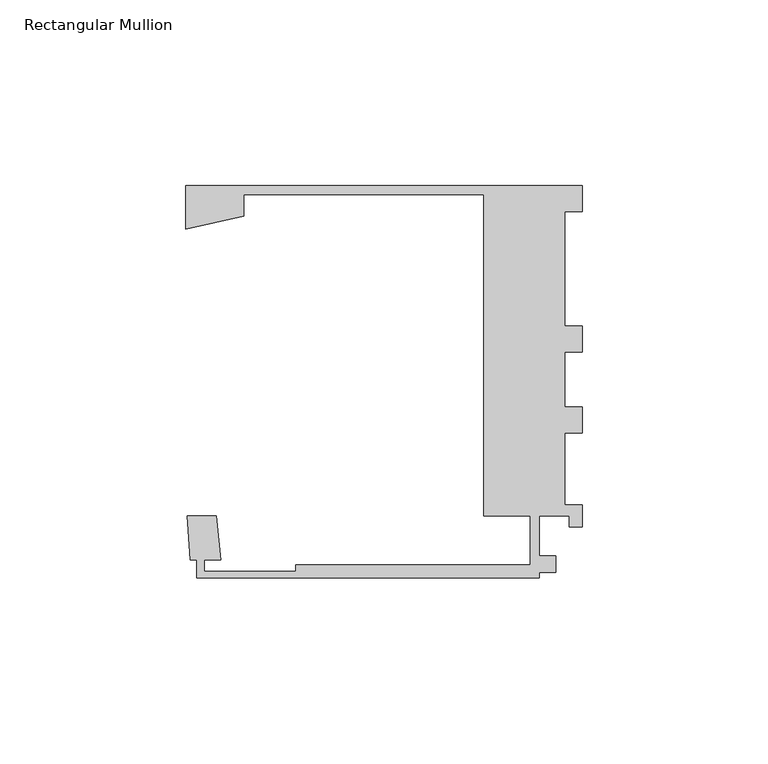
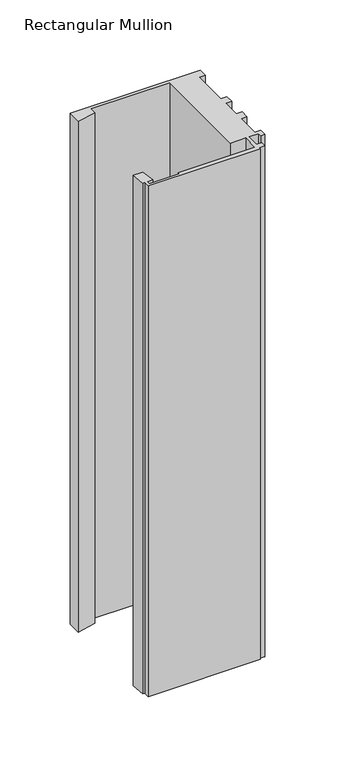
"""IFC4 building model written with IfcOpenShell, lengths in millimetres: member geometry, Rectangular Mullion : Danpal_Airpt_End-Mullion_B1."""

from ifc_helpers import new_model, si_unit, frame, origin, place, context, project, spatial, polyline, outline, extrude, source, transform, mapped, element, save


def rectangular_mullion_c23b2a25(model_context):
    return source(origin(), model_context, "Body", "SweptSolid", [
        extrude(outline(polyline([(-11.6055875, -92.6094337), (-103.8999976, -92.6094337), (-103.8999976, -87.7698451), (-105.6776694, -87.7698451), (-106.4274982, -75.8596534), (-98.5693208, -75.8596534), (-97.4384397, -87.7698451), (-101.8999976, -87.7698451), (-101.8999976, -90.8094336), (-77.1531178, -90.8094336), (-77.1531178, -89.1094336), (-14.1055875, -89.1094336), (-14.1055875, -75.8596534), (-26.6209612, -75.8596534), (-26.6209612, 10.6837558), (-91.2900275, 10.6837558), (-91.2900275, 4.9090081), (-106.8892292, 1.4378016), (-106.8892292, 13.1837558), (0.0, 13.1837558), (0.0, 6.1837558), (-4.8, 6.1837558), (-4.8, -24.6595054), (0.0, -24.6595054), (0.0, -31.6595227), (-4.8, -31.6595227), (-4.8, -46.4688518), (0.0, -46.4688518), (0.0, -53.4688518), (-4.8, -53.4688518), (-4.8, -72.9077707), (0.0, -72.9077707), (0.0, -78.8594337), (-3.5072447, -78.8594337), (-3.5072447, -75.8594337), (-11.6055875, -75.8594337), (-11.6055875, -86.6049249), (-7.1518595, -86.6049249), (-7.1518595, -91.1094337), (-11.6055875, -91.1094337), (-11.6055875, -92.6094337)])), frame((0.0, 0.0, -444.0622146), z_axis=(0.0, 0.0, 1.0), x_axis=(1.0, 0.0, 0.0)), (0.0, 0.0, 1.0), 444.0622146),
    ])


if __name__ == "__main__":
    model = new_model("IFC4")
    model_context = context("Model", 3, world=origin())
    ifc_project = project(units=[si_unit("LENGTHUNIT", "METRE", prefix="MILLI")], contexts=[model_context])
    site = spatial("IfcSite", under=ifc_project)
    building = spatial("IfcBuilding", under=site)
    placement = place(None, origin())
    rectangular_mullion_shape = rectangular_mullion_c23b2a25(model_context)
    element("IfcMember", 1, ObjectType="Rectangular Mullion : Danpal_Airpt_End-Mullion_B1", at=placement, inside=building, context=model_context, shape_type="MappedRepresentation", body=[
        mapped(rectangular_mullion_shape, transform((0.0, 0.0, 0.0), x_axis=(1.0, 0.0, 0.0), y_axis=(0.0, 1.0, 0.0), z_axis=(0.0, 0.0, 1.0))),
    ])
    save(model, "model.ifc")
